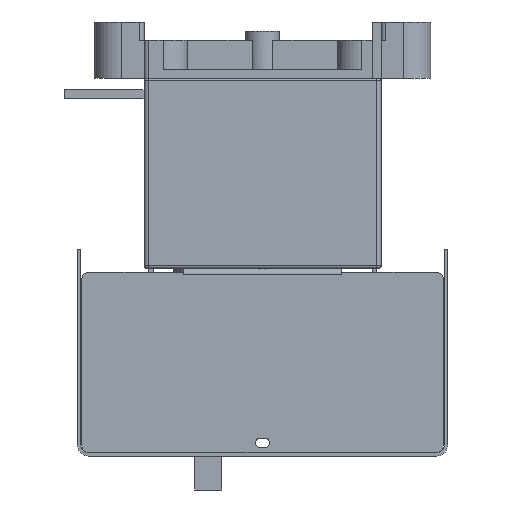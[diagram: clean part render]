
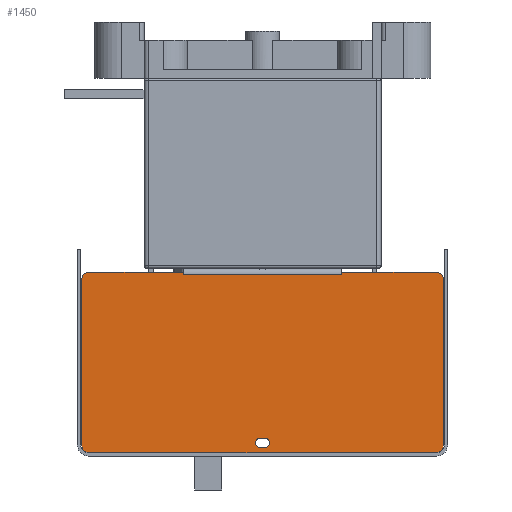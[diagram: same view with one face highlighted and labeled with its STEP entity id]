
A CAD part, left-side view. The second image highlights one B-rep face of the part: STEP entity #1450.
In plain terms, the highlighted planar face has unit normal (-1, 0, 0).
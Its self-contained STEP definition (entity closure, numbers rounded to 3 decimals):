
#150=FACE_BOUND('',#4154,.T.);
#151=FACE_BOUND('',#4155,.T.);
#553=PLANE('',#22695);
#1450=ADVANCED_FACE('',(#150,#151),#553,.T.);
#4154=EDGE_LOOP('',(#11325,#11326,#11327,#11328));
#4155=EDGE_LOOP('',(#11329,#11330,#11331,#11332,#11333,#11334,#11335,#11336,
#11337,#11338,#11339,#11340,#11341,#11342));
#5640=LINE('',#31647,#7972);
#5741=LINE('',#31940,#8073);
#5755=LINE('',#31971,#8087);
#5757=LINE('',#31975,#8089);
#5759=LINE('',#31979,#8091);
#5762=LINE('',#31985,#8094);
#5772=LINE('',#32018,#8104);
#5773=LINE('',#32022,#8105);
#5774=LINE('',#32023,#8106);
#5775=LINE('',#32027,#8107);
#5776=LINE('',#32032,#8108);
#5777=LINE('',#32036,#8109);
#7972=VECTOR('',#25346,1.);
#8073=VECTOR('',#25625,1.);
#8087=VECTOR('',#25655,1.);
#8089=VECTOR('',#25659,1.);
#8091=VECTOR('',#25663,1.);
#8094=VECTOR('',#25668,1.);
#8104=VECTOR('',#25696,1.);
#8105=VECTOR('',#25699,1.);
#8106=VECTOR('',#25700,1.);
#8107=VECTOR('',#25703,1.);
#8108=VECTOR('',#25708,1.);
#8109=VECTOR('',#25711,1.);
#11325=ORIENTED_EDGE('',*,*,#19030,.T.);
#11326=ORIENTED_EDGE('',*,*,#19031,.T.);
#11327=ORIENTED_EDGE('',*,*,#19032,.T.);
#11328=ORIENTED_EDGE('',*,*,#19033,.T.);
#11329=ORIENTED_EDGE('',*,*,#19009,.F.);
#11330=ORIENTED_EDGE('',*,*,#19007,.T.);
#11331=ORIENTED_EDGE('',*,*,#18990,.T.);
#11332=ORIENTED_EDGE('',*,*,#19011,.T.);
#11333=ORIENTED_EDGE('',*,*,#19014,.F.);
#11334=ORIENTED_EDGE('',*,*,#19034,.T.);
#11335=ORIENTED_EDGE('',*,*,#19035,.T.);
#11336=ORIENTED_EDGE('',*,*,#19036,.T.);
#11337=ORIENTED_EDGE('',*,*,#19037,.T.);
#11338=ORIENTED_EDGE('',*,*,#18848,.T.);
#11339=ORIENTED_EDGE('',*,*,#19038,.T.);
#11340=ORIENTED_EDGE('',*,*,#19039,.T.);
#11341=ORIENTED_EDGE('',*,*,#19040,.T.);
#11342=ORIENTED_EDGE('',*,*,#19041,.T.);
#16577=VERTEX_POINT('',#31611);
#16580=VERTEX_POINT('',#31622);
#16682=VERTEX_POINT('',#31939);
#16683=VERTEX_POINT('',#31941);
#16690=VERTEX_POINT('',#31968);
#16693=VERTEX_POINT('',#31976);
#16694=VERTEX_POINT('',#31980);
#16696=VERTEX_POINT('',#31986);
#16708=VERTEX_POINT('',#32016);
#16709=VERTEX_POINT('',#32017);
#16710=VERTEX_POINT('',#32019);
#16711=VERTEX_POINT('',#32021);
#16712=VERTEX_POINT('',#32024);
#16713=VERTEX_POINT('',#32026);
#16714=VERTEX_POINT('',#32028);
#16715=VERTEX_POINT('',#32031);
#16716=VERTEX_POINT('',#32033);
#16717=VERTEX_POINT('',#32035);
#18848=EDGE_CURVE('',#16580,#16577,#5640,.T.);
#18990=EDGE_CURVE('',#16683,#16682,#5741,.T.);
#19007=EDGE_CURVE('',#16690,#16683,#5755,.T.);
#19009=EDGE_CURVE('',#16690,#16693,#5757,.T.);
#19011=EDGE_CURVE('',#16682,#16694,#5759,.T.);
#19014=EDGE_CURVE('',#16696,#16694,#5762,.T.);
#19030=EDGE_CURVE('',#16708,#16709,#21635,.T.);
#19031=EDGE_CURVE('',#16709,#16710,#5772,.T.);
#19032=EDGE_CURVE('',#16710,#16711,#21636,.T.);
#19033=EDGE_CURVE('',#16711,#16708,#5773,.T.);
#19034=EDGE_CURVE('',#16696,#16712,#5774,.T.);
#19035=EDGE_CURVE('',#16712,#16713,#21637,.T.);
#19036=EDGE_CURVE('',#16713,#16714,#5775,.T.);
#19037=EDGE_CURVE('',#16714,#16580,#21638,.T.);
#19038=EDGE_CURVE('',#16577,#16715,#21639,.T.);
#19039=EDGE_CURVE('',#16715,#16716,#5776,.T.);
#19040=EDGE_CURVE('',#16716,#16717,#21640,.T.);
#19041=EDGE_CURVE('',#16717,#16693,#5777,.T.);
#21635=CIRCLE('',#22689,2.1);
#21636=CIRCLE('',#22690,2.1);
#21637=CIRCLE('',#22691,3.);
#21638=CIRCLE('',#22692,3.);
#21639=CIRCLE('',#22693,3.);
#21640=CIRCLE('',#22694,3.);
#22689=AXIS2_PLACEMENT_3D('',#32015,#25694,#25695);
#22690=AXIS2_PLACEMENT_3D('',#32020,#25697,#25698);
#22691=AXIS2_PLACEMENT_3D('',#32025,#25701,#25702);
#22692=AXIS2_PLACEMENT_3D('',#32029,#25704,#25705);
#22693=AXIS2_PLACEMENT_3D('',#32030,#25706,#25707);
#22694=AXIS2_PLACEMENT_3D('',#32034,#25709,#25710);
#22695=AXIS2_PLACEMENT_3D('',#32037,#25712,#25713);
#25346=DIRECTION('',(0.,-1.,0.));
#25625=DIRECTION('',(0.,1.,0.));
#25655=DIRECTION('',(0.,1.,0.));
#25659=DIRECTION('',(0.,0.,1.));
#25663=DIRECTION('',(0.,1.,0.));
#25668=DIRECTION('',(0.,0.,-1.));
#25694=DIRECTION('',(1.,0.,0.));
#25695=DIRECTION('',(0.,1.,0.));
#25696=DIRECTION('',(0.,-1.,0.));
#25697=DIRECTION('',(1.,0.,0.));
#25698=DIRECTION('',(0.,1.,0.));
#25699=DIRECTION('',(0.,1.,0.));
#25700=DIRECTION('',(0.,1.,0.));
#25701=DIRECTION('',(-1.,0.,0.));
#25702=DIRECTION('',(0.,1.,0.));
#25703=DIRECTION('',(0.,0.,-1.));
#25704=DIRECTION('',(-1.,0.,0.));
#25705=DIRECTION('',(0.,1.,0.));
#25706=DIRECTION('',(-1.,0.,0.));
#25707=DIRECTION('',(0.,1.,0.));
#25708=DIRECTION('',(0.,0.,1.));
#25709=DIRECTION('',(-1.,0.,0.));
#25710=DIRECTION('',(0.,1.,0.));
#25711=DIRECTION('',(0.,1.,0.));
#25712=DIRECTION('',(-1.,0.,0.));
#25713=DIRECTION('',(0.,-1.,0.));
#31611=CARTESIAN_POINT('',(-189.3,-77.,-165.8));
#31622=CARTESIAN_POINT('',(-189.3,77.,-165.8));
#31647=CARTESIAN_POINT('',(-189.3,77.,-165.8));
#31939=CARTESIAN_POINT('',(-189.3,35.,-86.8));
#31940=CARTESIAN_POINT('',(-189.3,50.5,-86.8));
#31941=CARTESIAN_POINT('',(-189.3,-35.,-86.8));
#31968=CARTESIAN_POINT('',(-189.3,-35.002,-86.8));
#31971=CARTESIAN_POINT('',(-189.3,77.,-86.8));
#31975=CARTESIAN_POINT('',(-189.3,-35.002,-162.8));
#31976=CARTESIAN_POINT('',(-189.3,-35.002,-85.8));
#31979=CARTESIAN_POINT('',(-189.3,77.,-86.8));
#31980=CARTESIAN_POINT('',(-189.3,35.002,-86.8));
#31985=CARTESIAN_POINT('',(-189.3,35.002,-162.8));
#31986=CARTESIAN_POINT('',(-189.3,35.002,-85.8));
#32015=CARTESIAN_POINT('',(-189.3,1.,-161.4));
#32016=CARTESIAN_POINT('',(-189.3,1.,-163.5));
#32017=CARTESIAN_POINT('',(-189.3,1.,-159.3));
#32018=CARTESIAN_POINT('',(-189.3,1.,-159.3));
#32019=CARTESIAN_POINT('',(-189.3,-1.,-159.3));
#32020=CARTESIAN_POINT('',(-189.3,-1.,-161.4));
#32021=CARTESIAN_POINT('',(-189.3,-1.,-163.5));
#32022=CARTESIAN_POINT('',(-189.3,-1.,-163.5));
#32023=CARTESIAN_POINT('',(-189.3,-77.,-85.8));
#32024=CARTESIAN_POINT('',(-189.3,77.,-85.8));
#32025=CARTESIAN_POINT('',(-189.3,77.,-88.8));
#32026=CARTESIAN_POINT('',(-189.3,80.,-88.8));
#32027=CARTESIAN_POINT('',(-189.3,80.,-88.8));
#32028=CARTESIAN_POINT('',(-189.3,80.,-162.8));
#32029=CARTESIAN_POINT('',(-189.3,77.,-162.8));
#32030=CARTESIAN_POINT('',(-189.3,-77.,-162.8));
#32031=CARTESIAN_POINT('',(-189.3,-80.,-162.8));
#32032=CARTESIAN_POINT('',(-189.3,-80.,-162.8));
#32033=CARTESIAN_POINT('',(-189.3,-80.,-88.8));
#32034=CARTESIAN_POINT('',(-189.3,-77.,-88.8));
#32035=CARTESIAN_POINT('',(-189.3,-77.,-85.8));
#32036=CARTESIAN_POINT('',(-189.3,-77.,-85.8));
#32037=CARTESIAN_POINT('',(-189.3,77.,-162.8));
